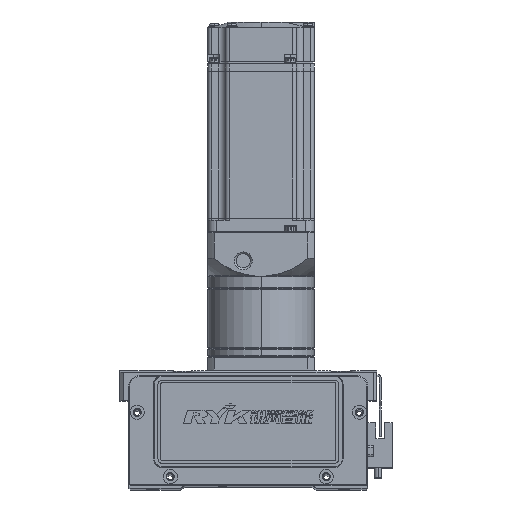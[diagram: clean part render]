
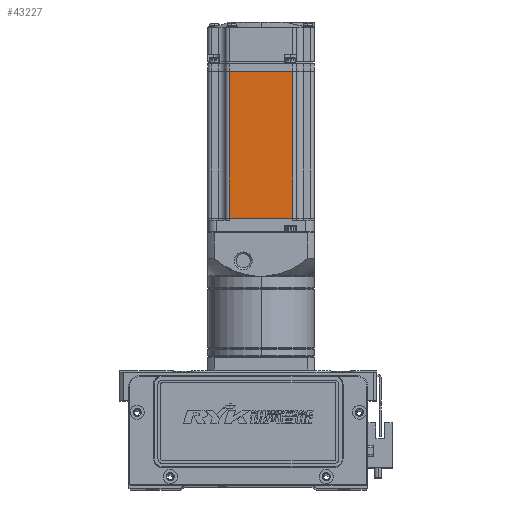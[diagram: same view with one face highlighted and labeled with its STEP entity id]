
A CAD part, top view. The second image highlights one B-rep face of the part: STEP entity #43227.
In plain terms, the highlighted planar face has unit normal (0, 0, 1).
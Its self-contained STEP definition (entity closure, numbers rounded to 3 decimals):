
#325 = FACE_OUTER_BOUND ( 'NONE', #53371, .T. ) ;
#3005 = CARTESIAN_POINT ( 'NONE',  ( -90.45, 0., 30. ) ) ;
#3895 = CARTESIAN_POINT ( 'NONE',  ( -7.75, 0., 30. ) ) ;
#4272 = ORIENTED_EDGE ( 'NONE', *, *, #7630, .T. ) ;
#5617 = CARTESIAN_POINT ( 'NONE',  ( -6.5, 18., 30. ) ) ;
#7630 = EDGE_CURVE ( 'NONE', #15391, #28295, #36659, .T. ) ;
#8103 = DIRECTION ( 'NONE',  ( 0., 0., 1. ) ) ;
#9194 = EDGE_CURVE ( 'NONE', #15391, #17483, #17178, .T. ) ;
#10885 = ORIENTED_EDGE ( 'NONE', *, *, #33300, .T. ) ;
#11031 = VECTOR ( 'NONE', #17924, 1000. ) ;
#13703 = CARTESIAN_POINT ( 'NONE',  ( -6.5, -25., 30. ) ) ;
#15391 = VERTEX_POINT ( 'NONE', #50275 ) ;
#17178 = LINE ( 'NONE', #3895, #27258 ) ;
#17241 = VECTOR ( 'NONE', #26331, 1000. ) ;
#17483 = VERTEX_POINT ( 'NONE', #49039 ) ;
#17924 = DIRECTION ( 'NONE',  ( 0., -1., 0. ) ) ;
#21952 = CARTESIAN_POINT ( 'NONE',  ( -90.45, -18., 30. ) ) ;
#26331 = DIRECTION ( 'NONE',  ( -1., 0., 0. ) ) ;
#27258 = VECTOR ( 'NONE', #36844, 1000. ) ;
#27371 = VECTOR ( 'NONE', #30714, 1000. ) ;
#28295 = VERTEX_POINT ( 'NONE', #39143 ) ;
#30440 = LINE ( 'NONE', #41905, #17241 ) ;
#30714 = DIRECTION ( 'NONE',  ( -1., 0., 0. ) ) ;
#33300 = EDGE_CURVE ( 'NONE', #28295, #53179, #34238, .T. ) ;
#34118 = AXIS2_PLACEMENT_3D ( 'NONE', #13703, #8103, #48133 ) ;
#34238 = LINE ( 'NONE', #3005, #11031 ) ;
#36659 = LINE ( 'NONE', #5617, #27371 ) ;
#36844 = DIRECTION ( 'NONE',  ( 0., -1., 0. ) ) ;
#39143 = CARTESIAN_POINT ( 'NONE',  ( -90.45, 18., 30. ) ) ;
#39165 = ORIENTED_EDGE ( 'NONE', *, *, #57871, .F. ) ;
#41905 = CARTESIAN_POINT ( 'NONE',  ( -6.5, -18., 30. ) ) ;
#43227 = ADVANCED_FACE ( 'NONE', ( #325 ), #62466, .T. ) ;
#48133 = DIRECTION ( 'NONE',  ( 1., 0., 0. ) ) ;
#49039 = CARTESIAN_POINT ( 'NONE',  ( -7.75, -18., 30. ) ) ;
#50275 = CARTESIAN_POINT ( 'NONE',  ( -7.75, 18., 30. ) ) ;
#53179 = VERTEX_POINT ( 'NONE', #21952 ) ;
#53371 = EDGE_LOOP ( 'NONE', ( #58835, #4272, #10885, #39165 ) ) ;
#57871 = EDGE_CURVE ( 'NONE', #17483, #53179, #30440, .T. ) ;
#58835 = ORIENTED_EDGE ( 'NONE', *, *, #9194, .F. ) ;
#62466 = PLANE ( 'NONE',  #34118 ) ;
